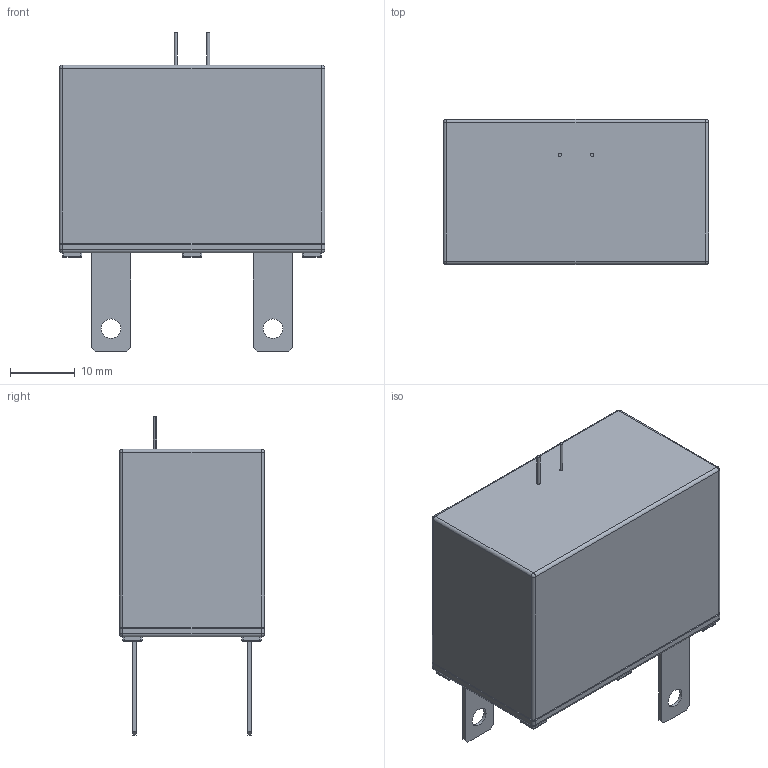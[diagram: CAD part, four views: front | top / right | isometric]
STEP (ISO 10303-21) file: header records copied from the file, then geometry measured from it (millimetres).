
FILE_DESCRIPTION((''),'2;1');
FILE_NAME('TFMOV20K-22-IT-20200812','2020-08-12T',('SET-01114'),(''),'PRO/ENGINEER BY PARAMETRIC TECHNOLOGY CORPORATION, 2012310','PRO/ENGINEER BY PARAMETRIC TECHNOLOGY CORPORATION, 2012310','');
FILE_SCHEMA(('CONFIG_CONTROL_DESIGN','SHAPE_APPEARANCE_LAYERS_GROUPS'));
Length unit declared in the file: millimetre
Products named in the file (1): TFMOV20K-22-IT-20200812
Bounding box: 41 x 22.4 x 49.2 mm (x, y, z)
Volume: 26570 mm3; surface area: 7256 mm2
Topology: 1 solids, 6 shells, 278 faces, 648 edges, 390 vertices
Faces by surface type: plane 123, cylinder 110, sphere 35, torus 9, bspline 1
Entity records: 9873 total; most frequent: CARTESIAN_POINT 1419, DIRECTION 1403, ORIENTED_EDGE 1296, PRESENTATION_STYLE_ASSIGNMENT 649, STYLED_ITEM 649, CURVE_STYLE 648, EDGE_CURVE 648, AXIS2_PLACEMENT_3D 496
